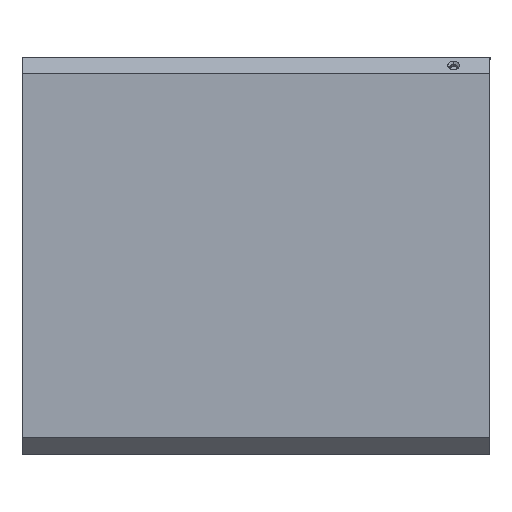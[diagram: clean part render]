
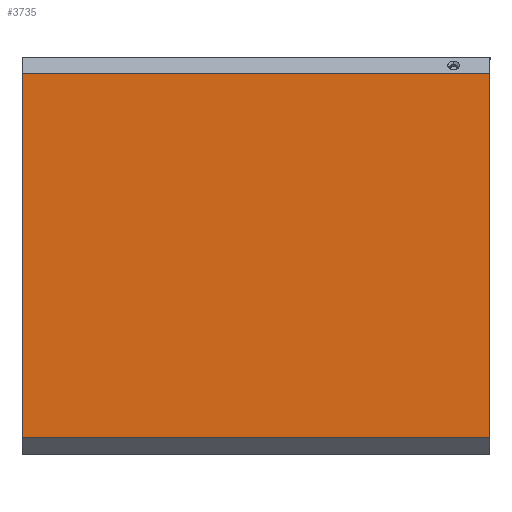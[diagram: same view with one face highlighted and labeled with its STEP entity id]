
A CAD part, top view. The second image highlights one B-rep face of the part: STEP entity #3735.
In plain terms, the highlighted planar face has unit normal (0, 0, 1).
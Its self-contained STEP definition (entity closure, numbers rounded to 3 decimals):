
#117 = LINE ( 'NONE', #3311, #3405 ) ;
#425 = EDGE_CURVE ( 'NONE', #2519, #3036, #1770, .T. ) ;
#569 = LINE ( 'NONE', #1194, #2202 ) ;
#693 = CARTESIAN_POINT ( 'NONE',  ( 50., -101.805, 7.8 ) ) ;
#699 = DIRECTION ( 'NONE',  ( 0., -1., 0. ) ) ;
#912 = EDGE_CURVE ( 'NONE', #2581, #2806, #3357, .T. ) ;
#986 = CARTESIAN_POINT ( 'NONE',  ( 49.8, 63.405, 7.8 ) ) ;
#1100 = CARTESIAN_POINT ( 'NONE',  ( 49.8, -101.805, 7.8 ) ) ;
#1194 = CARTESIAN_POINT ( 'NONE',  ( 49.8, 63.405, 7.8 ) ) ;
#1294 = ORIENTED_EDGE ( 'NONE', *, *, #1507, .T. ) ;
#1353 = FACE_OUTER_BOUND ( 'NONE', #1459, .T. ) ;
#1359 = ORIENTED_EDGE ( 'NONE', *, *, #912, .F. ) ;
#1394 = EDGE_CURVE ( 'NONE', #2581, #2519, #569, .T. ) ;
#1415 = CARTESIAN_POINT ( 'NONE',  ( -162.3, 63.405, 7.8 ) ) ;
#1443 = VECTOR ( 'NONE', #1856, 1000. ) ;
#1459 = EDGE_LOOP ( 'NONE', ( #1511, #1294, #1359, #2502 ) ) ;
#1507 = EDGE_CURVE ( 'NONE', #3036, #2806, #117, .T. ) ;
#1511 = ORIENTED_EDGE ( 'NONE', *, *, #425, .T. ) ;
#1575 = AXIS2_PLACEMENT_3D ( 'NONE', #1884, #2737, #3614 ) ;
#1736 = CARTESIAN_POINT ( 'NONE',  ( 50., 63.405, 7.8 ) ) ;
#1748 = DIRECTION ( 'NONE',  ( 0., 1., 0. ) ) ;
#1770 = LINE ( 'NONE', #1736, #2159 ) ;
#1856 = DIRECTION ( 'NONE',  ( -1., 0., 0. ) ) ;
#1884 = CARTESIAN_POINT ( 'NONE',  ( 50., 0., 7.8 ) ) ;
#2159 = VECTOR ( 'NONE', #2897, 1000. ) ;
#2202 = VECTOR ( 'NONE', #1748, 1000. ) ;
#2392 = CARTESIAN_POINT ( 'NONE',  ( -162.3, -101.805, 7.8 ) ) ;
#2502 = ORIENTED_EDGE ( 'NONE', *, *, #1394, .T. ) ;
#2519 = VERTEX_POINT ( 'NONE', #986 ) ;
#2581 = VERTEX_POINT ( 'NONE', #1100 ) ;
#2737 = DIRECTION ( 'NONE',  ( 0., 0., 1. ) ) ;
#2756 = PLANE ( 'NONE',  #1575 ) ;
#2806 = VERTEX_POINT ( 'NONE', #2392 ) ;
#2897 = DIRECTION ( 'NONE',  ( -1., 0., 0. ) ) ;
#3036 = VERTEX_POINT ( 'NONE', #1415 ) ;
#3311 = CARTESIAN_POINT ( 'NONE',  ( -162.3, 0., 7.8 ) ) ;
#3357 = LINE ( 'NONE', #693, #1443 ) ;
#3405 = VECTOR ( 'NONE', #699, 1000. ) ;
#3614 = DIRECTION ( 'NONE',  ( 1., 0., 0. ) ) ;
#3735 = ADVANCED_FACE ( 'NONE', ( #1353 ), #2756, .T. ) ;
